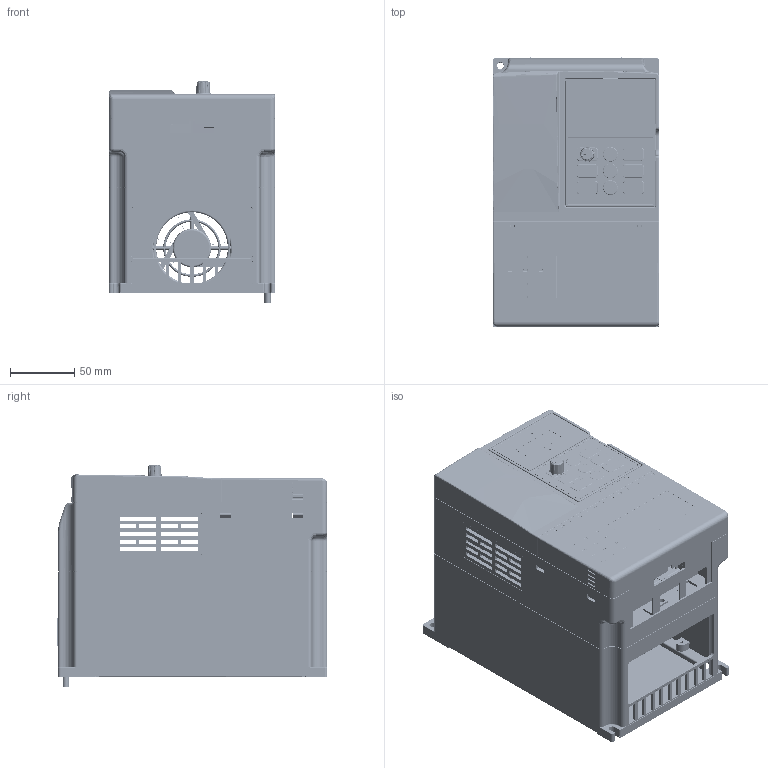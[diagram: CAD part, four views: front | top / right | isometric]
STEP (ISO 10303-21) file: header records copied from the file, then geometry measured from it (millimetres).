
FILE_DESCRIPTION((''),'2;1');
FILE_NAME('SD200-4T0037','2020-05-25T',('ranqinwen'),(''),'CREO PARAMETRIC BY PTC INC, 2016260','CREO PARAMETRIC BY PTC INC, 2016260','');
FILE_SCHEMA(('AUTOMOTIVE_DESIGN { 1 0 10303 214 1 1 1 1 }'));
Products named in the file (1): SD200-4T0037
Bounding box: 130 x 211 x 172.5 mm (x, y, z)
Surface area: 607691.9 mm2 (no closed solid volume)
Topology: 0 solids, 42 shells, 14394 faces, 36296 edges, 22297 vertices
Faces by surface type: bspline 5404, plane 4556, cylinder 3421, torus 566, extrusion 212, cone 208, sphere 27
Entity records: 733945 total; most frequent: CARTESIAN_POINT 293914, ORIENTED_EDGE 72540, DIRECTION 46585, PRESENTATION_STYLE_ASSIGNMENT 40140, STYLED_ITEM 36319, CURVE_STYLE 36277, EDGE_CURVE 36270, VERTEX_POINT 22297
